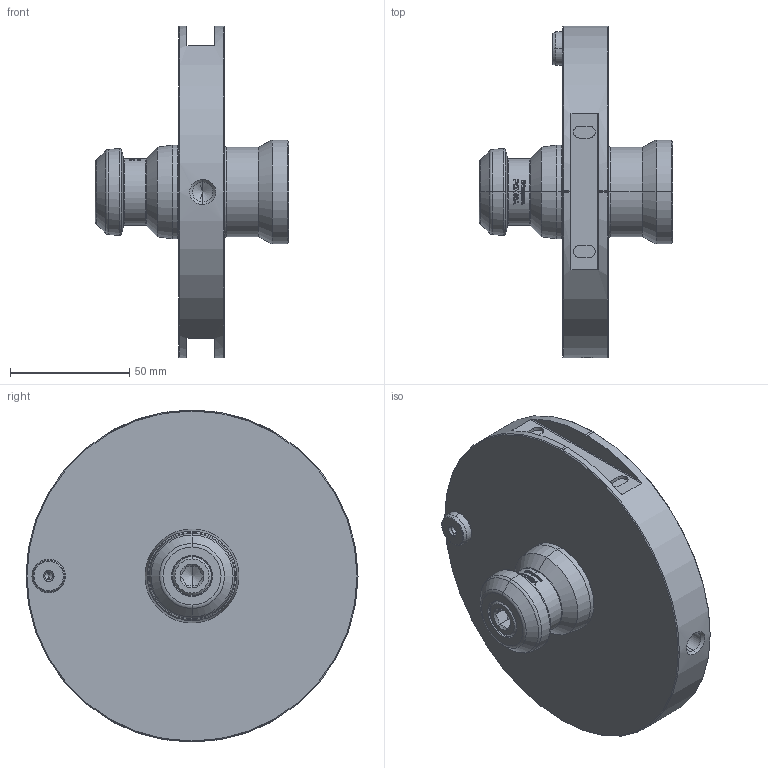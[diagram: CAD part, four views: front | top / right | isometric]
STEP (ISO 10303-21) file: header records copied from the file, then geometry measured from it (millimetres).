
FILE_DESCRIPTION (( 'STEP AP203' ), '1' );
FILE_NAME ('61P296249.STEP', '2024-04-26T06:57:17', ( '' ), ( '' ), 'SwSTEP 2.0', 'SolidWorks 2022', '' );
FILE_SCHEMA (( 'CONFIG_CONTROL_DESIGN' ));
Length unit declared in the file: millimetre
Products named in the file (5): 0030110045; 61P293306; 61P864196; 61P296249; 61P493325
Assembly tree (4 placements, depth 2):
  61P296249
    61P864196
    61P293306
    61P493325
    0030110045
Bounding box: 81 x 139 x 139 mm (x, y, z)
Volume: 337642.7 mm3; surface area: 57490.3 mm2
Topology: 4 solids, 4 shells, 408 faces, 1667 edges, 1309 vertices
Faces by surface type: plane 131, cylinder 89, bspline 88, cone 82, torus 18
Entity records: 22027 total; most frequent: CARTESIAN_POINT 9457, ORIENTED_EDGE 3306, DIRECTION 1786, EDGE_CURVE 1653, VERTEX_POINT 1309, AXIS2_PLACEMENT_3D 623, LINE 540, VECTOR 540
